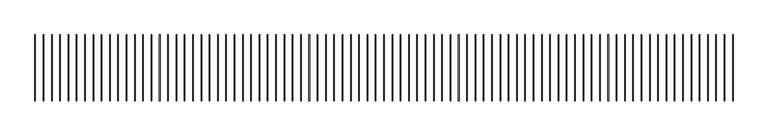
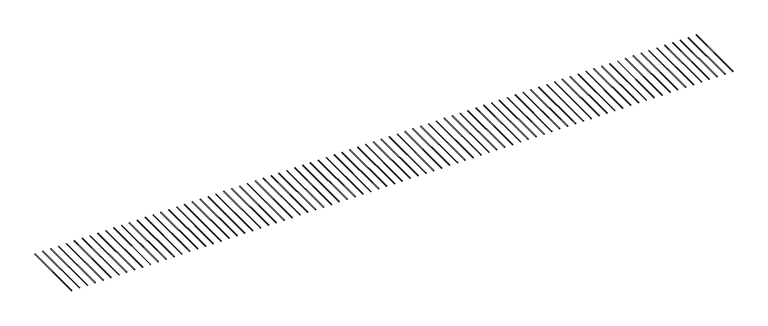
"""IFC4 building model written with IfcOpenShell, lengths in millimetres: proxy geometry, ARQ-PAS-Osogrid-Ace : ARQ-PAS-Osogrid-Ace."""

from ifc_helpers import new_model, si_unit, point, frame, frame_2d, origin, place, context, project, spatial, circle_curve, trimmed, segment, composite_curve, outline, extrude, source, transform, mapped, element, save


def generic_models_87788374(model_context):
    return source(origin(), model_context, "Body", "SweptSolid", [
        extrude(outline(composite_curve([segment(trimmed(circle_curve(frame_2d((30.343695, -108.264152)), 3.0), [point((30.343695, -111.264152))], [point((30.343695, -105.264152))], False, "CARTESIAN"), True, "CONTINUOUS"), segment(trimmed(circle_curve(frame_2d((30.343695, -108.264152)), 3.0), [point((30.343695, -105.264152))], [point((30.343695, -111.264152))], False, "CARTESIAN"), True, "CONTINUOUS")], self_intersect=False)), frame((0.0, 2.5, 0.0), z_axis=(0.0, 1.0, 0.0), x_axis=(0.0, 0.0, 1.0)), (0.0, 0.0, 1.0), 775.0),
        extrude(outline(composite_curve([segment(trimmed(circle_curve(frame_2d((30.343695, -205.1328389)), 3.0), [point((30.343695, -208.1328389))], [point((30.343695, -202.1328389))], False, "CARTESIAN"), True, "CONTINUOUS"), segment(trimmed(circle_curve(frame_2d((30.343695, -205.1328389)), 3.0), [point((30.343695, -202.1328389))], [point((30.343695, -208.1328389))], False, "CARTESIAN"), True, "CONTINUOUS")], self_intersect=False)), frame((0.0, 2.5, 0.0), z_axis=(0.0, 1.0, 0.0), x_axis=(0.0, 0.0, 1.0)), (0.0, 0.0, 1.0), 775.0),
        extrude(outline(composite_curve([segment(trimmed(circle_curve(frame_2d((30.343695, -302.0015257)), 3.0), [point((30.343695, -305.0015257))], [point((30.343695, -299.0015257))], False, "CARTESIAN"), True, "CONTINUOUS"), segment(trimmed(circle_curve(frame_2d((30.343695, -302.0015257)), 3.0), [point((30.343695, -299.0015257))], [point((30.343695, -305.0015257))], False, "CARTESIAN"), True, "CONTINUOUS")], self_intersect=False)), frame((0.0, 2.5, 0.0), z_axis=(0.0, 1.0, 0.0), x_axis=(0.0, 0.0, 1.0)), (0.0, 0.0, 1.0), 775.0),
        extrude(outline(composite_curve([segment(trimmed(circle_curve(frame_2d((30.343695, -398.8702126)), 3.0), [point((30.343695, -401.8702126))], [point((30.343695, -395.8702126))], False, "CARTESIAN"), True, "CONTINUOUS"), segment(trimmed(circle_curve(frame_2d((30.343695, -398.8702126)), 3.0), [point((30.343695, -395.8702126))], [point((30.343695, -401.8702126))], False, "CARTESIAN"), True, "CONTINUOUS")], self_intersect=False)), frame((0.0, 2.5, 0.0), z_axis=(0.0, 1.0, 0.0), x_axis=(0.0, 0.0, 1.0)), (0.0, 0.0, 1.0), 775.0),
        extrude(outline(composite_curve([segment(trimmed(circle_curve(frame_2d((30.343695, -495.7388995)), 3.0), [point((30.343695, -498.7388995))], [point((30.343695, -492.7388995))], False, "CARTESIAN"), True, "CONTINUOUS"), segment(trimmed(circle_curve(frame_2d((30.343695, -495.7388995)), 3.0), [point((30.343695, -492.7388995))], [point((30.343695, -498.7388995))], False, "CARTESIAN"), True, "CONTINUOUS")], self_intersect=False)), frame((0.0, 2.5, 0.0), z_axis=(0.0, 1.0, 0.0), x_axis=(0.0, 0.0, 1.0)), (0.0, 0.0, 1.0), 775.0),
        extrude(outline(composite_curve([segment(trimmed(circle_curve(frame_2d((30.343695, -592.6075863)), 3.0), [point((30.343695, -595.6075863))], [point((30.343695, -589.6075863))], False, "CARTESIAN"), True, "CONTINUOUS"), segment(trimmed(circle_curve(frame_2d((30.343695, -592.6075863)), 3.0), [point((30.343695, -589.6075863))], [point((30.343695, -595.6075863))], False, "CARTESIAN"), True, "CONTINUOUS")], self_intersect=False)), frame((0.0, 2.5, 0.0), z_axis=(0.0, 1.0, 0.0), x_axis=(0.0, 0.0, 1.0)), (0.0, 0.0, 1.0), 775.0),
        extrude(outline(composite_curve([segment(trimmed(circle_curve(frame_2d((30.343695, -689.4762732)), 3.0), [point((30.343695, -692.4762732))], [point((30.343695, -686.4762732))], False, "CARTESIAN"), True, "CONTINUOUS"), segment(trimmed(circle_curve(frame_2d((30.343695, -689.4762732)), 3.0), [point((30.343695, -686.4762732))], [point((30.343695, -692.4762732))], False, "CARTESIAN"), True, "CONTINUOUS")], self_intersect=False)), frame((0.0, 2.5, 0.0), z_axis=(0.0, 1.0, 0.0), x_axis=(0.0, 0.0, 1.0)), (0.0, 0.0, 1.0), 775.0),
        extrude(outline(composite_curve([segment(trimmed(circle_curve(frame_2d((30.343695, -786.3449601)), 3.0), [point((30.343695, -789.3449601))], [point((30.343695, -783.3449601))], False, "CARTESIAN"), True, "CONTINUOUS"), segment(trimmed(circle_curve(frame_2d((30.343695, -786.3449601)), 3.0), [point((30.343695, -783.3449601))], [point((30.343695, -789.3449601))], False, "CARTESIAN"), True, "CONTINUOUS")], self_intersect=False)), frame((0.0, 2.5, 0.0), z_axis=(0.0, 1.0, 0.0), x_axis=(0.0, 0.0, 1.0)), (0.0, 0.0, 1.0), 775.0),
        extrude(outline(composite_curve([segment(trimmed(circle_curve(frame_2d((30.343695, -883.2136469)), 3.0), [point((30.343695, -886.2136469))], [point((30.343695, -880.2136469))], False, "CARTESIAN"), True, "CONTINUOUS"), segment(trimmed(circle_curve(frame_2d((30.343695, -883.2136469)), 3.0), [point((30.343695, -880.2136469))], [point((30.343695, -886.2136469))], False, "CARTESIAN"), True, "CONTINUOUS")], self_intersect=False)), frame((0.0, 2.5, 0.0), z_axis=(0.0, 1.0, 0.0), x_axis=(0.0, 0.0, 1.0)), (0.0, 0.0, 1.0), 775.0),
        extrude(outline(composite_curve([segment(trimmed(circle_curve(frame_2d((30.343695, -980.0823338)), 3.0), [point((30.343695, -983.0823338))], [point((30.343695, -977.0823338))], False, "CARTESIAN"), True, "CONTINUOUS"), segment(trimmed(circle_curve(frame_2d((30.343695, -980.0823338)), 3.0), [point((30.343695, -977.0823338))], [point((30.343695, -983.0823338))], False, "CARTESIAN"), True, "CONTINUOUS")], self_intersect=False)), frame((0.0, 2.5, 0.0), z_axis=(0.0, 1.0, 0.0), x_axis=(0.0, 0.0, 1.0)), (0.0, 0.0, 1.0), 775.0),
        extrude(outline(composite_curve([segment(trimmed(circle_curve(frame_2d((30.343695, -1076.9510207)), 3.0), [point((30.343695, -1079.9510207))], [point((30.343695, -1073.9510207))], False, "CARTESIAN"), True, "CONTINUOUS"), segment(trimmed(circle_curve(frame_2d((30.343695, -1076.9510207)), 3.0), [point((30.343695, -1073.9510207))], [point((30.343695, -1079.9510207))], False, "CARTESIAN"), True, "CONTINUOUS")], self_intersect=False)), frame((0.0, 2.5, 0.0), z_axis=(0.0, 1.0, 0.0), x_axis=(0.0, 0.0, 1.0)), (0.0, 0.0, 1.0), 775.0),
        extrude(outline(composite_curve([segment(trimmed(circle_curve(frame_2d((30.343695, -1173.8197076)), 3.0), [point((30.343695, -1176.8197076))], [point((30.343695, -1170.8197076))], False, "CARTESIAN"), True, "CONTINUOUS"), segment(trimmed(circle_curve(frame_2d((30.343695, -1173.8197076)), 3.0), [point((30.343695, -1170.8197076))], [point((30.343695, -1176.8197076))], False, "CARTESIAN"), True, "CONTINUOUS")], self_intersect=False)), frame((0.0, 2.5, 0.0), z_axis=(0.0, 1.0, 0.0), x_axis=(0.0, 0.0, 1.0)), (0.0, 0.0, 1.0), 775.0),
        extrude(outline(composite_curve([segment(trimmed(circle_curve(frame_2d((30.343695, -1270.6883944)), 3.0), [point((30.343695, -1273.6883944))], [point((30.343695, -1267.6883944))], False, "CARTESIAN"), True, "CONTINUOUS"), segment(trimmed(circle_curve(frame_2d((30.343695, -1270.6883944)), 3.0), [point((30.343695, -1267.6883944))], [point((30.343695, -1273.6883944))], False, "CARTESIAN"), True, "CONTINUOUS")], self_intersect=False)), frame((0.0, 2.5, 0.0), z_axis=(0.0, 1.0, 0.0), x_axis=(0.0, 0.0, 1.0)), (0.0, 0.0, 1.0), 775.0),
        extrude(outline(composite_curve([segment(trimmed(circle_curve(frame_2d((30.343695, -1367.5570813)), 3.0), [point((30.343695, -1370.5570813))], [point((30.343695, -1364.5570813))], False, "CARTESIAN"), True, "CONTINUOUS"), segment(trimmed(circle_curve(frame_2d((30.343695, -1367.5570813)), 3.0), [point((30.343695, -1364.5570813))], [point((30.343695, -1370.5570813))], False, "CARTESIAN"), True, "CONTINUOUS")], self_intersect=False)), frame((0.0, 2.5, 0.0), z_axis=(0.0, 1.0, 0.0), x_axis=(0.0, 0.0, 1.0)), (0.0, 0.0, 1.0), 775.0),
        extrude(outline(composite_curve([segment(trimmed(circle_curve(frame_2d((30.343695, -1464.4257682)), 3.0), [point((30.343695, -1467.4257682))], [point((30.343695, -1461.4257682))], False, "CARTESIAN"), True, "CONTINUOUS"), segment(trimmed(circle_curve(frame_2d((30.343695, -1464.4257682)), 3.0), [point((30.343695, -1461.4257682))], [point((30.343695, -1467.4257682))], False, "CARTESIAN"), True, "CONTINUOUS")], self_intersect=False)), frame((0.0, 2.5, 0.0), z_axis=(0.0, 1.0, 0.0), x_axis=(0.0, 0.0, 1.0)), (0.0, 0.0, 1.0), 775.0),
        extrude(outline(composite_curve([segment(trimmed(circle_curve(frame_2d((30.343695, -1561.294455)), 3.0), [point((30.343695, -1564.294455))], [point((30.343695, -1558.294455))], False, "CARTESIAN"), True, "CONTINUOUS"), segment(trimmed(circle_curve(frame_2d((30.343695, -1561.294455)), 3.0), [point((30.343695, -1558.294455))], [point((30.343695, -1564.294455))], False, "CARTESIAN"), True, "CONTINUOUS")], self_intersect=False)), frame((0.0, 2.5, 0.0), z_axis=(0.0, 1.0, 0.0), x_axis=(0.0, 0.0, 1.0)), (0.0, 0.0, 1.0), 775.0),
        extrude(outline(composite_curve([segment(trimmed(circle_curve(frame_2d((30.343695, -1658.1631419)), 3.0), [point((30.343695, -1661.1631419))], [point((30.343695, -1655.1631419))], False, "CARTESIAN"), True, "CONTINUOUS"), segment(trimmed(circle_curve(frame_2d((30.343695, -1658.1631419)), 3.0), [point((30.343695, -1655.1631419))], [point((30.343695, -1661.1631419))], False, "CARTESIAN"), True, "CONTINUOUS")], self_intersect=False)), frame((0.0, 2.5, 0.0), z_axis=(0.0, 1.0, 0.0), x_axis=(0.0, 0.0, 1.0)), (0.0, 0.0, 1.0), 775.0),
        extrude(outline(composite_curve([segment(trimmed(circle_curve(frame_2d((30.343695, -1755.0318288)), 3.0), [point((30.343695, -1758.0318288))], [point((30.343695, -1752.0318288))], False, "CARTESIAN"), True, "CONTINUOUS"), segment(trimmed(circle_curve(frame_2d((30.343695, -1755.0318288)), 3.0), [point((30.343695, -1752.0318288))], [point((30.343695, -1758.0318288))], False, "CARTESIAN"), True, "CONTINUOUS")], self_intersect=False)), frame((0.0, 2.5, 0.0), z_axis=(0.0, 1.0, 0.0), x_axis=(0.0, 0.0, 1.0)), (0.0, 0.0, 1.0), 775.0),
        extrude(outline(composite_curve([segment(trimmed(circle_curve(frame_2d((30.343695, -1851.9005156)), 3.0), [point((30.343695, -1854.9005156))], [point((30.343695, -1848.9005156))], False, "CARTESIAN"), True, "CONTINUOUS"), segment(trimmed(circle_curve(frame_2d((30.343695, -1851.9005156)), 3.0), [point((30.343695, -1848.9005156))], [point((30.343695, -1854.9005156))], False, "CARTESIAN"), True, "CONTINUOUS")], self_intersect=False)), frame((0.0, 2.5, 0.0), z_axis=(0.0, 1.0, 0.0), x_axis=(0.0, 0.0, 1.0)), (0.0, 0.0, 1.0), 775.0),
        extrude(outline(composite_curve([segment(trimmed(circle_curve(frame_2d((30.343695, -1948.7692025)), 3.0), [point((30.343695, -1951.7692025))], [point((30.343695, -1945.7692025))], False, "CARTESIAN"), True, "CONTINUOUS"), segment(trimmed(circle_curve(frame_2d((30.343695, -1948.7692025)), 3.0), [point((30.343695, -1945.7692025))], [point((30.343695, -1951.7692025))], False, "CARTESIAN"), True, "CONTINUOUS")], self_intersect=False)), frame((0.0, 2.5, 0.0), z_axis=(0.0, 1.0, 0.0), x_axis=(0.0, 0.0, 1.0)), (0.0, 0.0, 1.0), 775.0),
        extrude(outline(composite_curve([segment(trimmed(circle_curve(frame_2d((30.343695, -2045.6378894)), 3.0), [point((30.343695, -2048.6378894))], [point((30.343695, -2042.6378894))], False, "CARTESIAN"), True, "CONTINUOUS"), segment(trimmed(circle_curve(frame_2d((30.343695, -2045.6378894)), 3.0), [point((30.343695, -2042.6378894))], [point((30.343695, -2048.6378894))], False, "CARTESIAN"), True, "CONTINUOUS")], self_intersect=False)), frame((0.0, 2.5, 0.0), z_axis=(0.0, 1.0, 0.0), x_axis=(0.0, 0.0, 1.0)), (0.0, 0.0, 1.0), 775.0),
        extrude(outline(composite_curve([segment(trimmed(circle_curve(frame_2d((30.343695, -2142.5065762)), 3.0), [point((30.343695, -2145.5065762))], [point((30.343695, -2139.5065762))], False, "CARTESIAN"), True, "CONTINUOUS"), segment(trimmed(circle_curve(frame_2d((30.343695, -2142.5065762)), 3.0), [point((30.343695, -2139.5065762))], [point((30.343695, -2145.5065762))], False, "CARTESIAN"), True, "CONTINUOUS")], self_intersect=False)), frame((0.0, 2.5, 0.0), z_axis=(0.0, 1.0, 0.0), x_axis=(0.0, 0.0, 1.0)), (0.0, 0.0, 1.0), 775.0),
        extrude(outline(composite_curve([segment(trimmed(circle_curve(frame_2d((30.343695, -2239.3752631)), 3.0), [point((30.343695, -2242.3752631))], [point((30.343695, -2236.3752631))], False, "CARTESIAN"), True, "CONTINUOUS"), segment(trimmed(circle_curve(frame_2d((30.343695, -2239.3752631)), 3.0), [point((30.343695, -2236.3752631))], [point((30.343695, -2242.3752631))], False, "CARTESIAN"), True, "CONTINUOUS")], self_intersect=False)), frame((0.0, 2.5, 0.0), z_axis=(0.0, 1.0, 0.0), x_axis=(0.0, 0.0, 1.0)), (0.0, 0.0, 1.0), 775.0),
        extrude(outline(composite_curve([segment(trimmed(circle_curve(frame_2d((30.343695, -2336.24395)), 3.0), [point((30.343695, -2339.24395))], [point((30.343695, -2333.24395))], False, "CARTESIAN"), True, "CONTINUOUS"), segment(trimmed(circle_curve(frame_2d((30.343695, -2336.24395)), 3.0), [point((30.343695, -2333.24395))], [point((30.343695, -2339.24395))], False, "CARTESIAN"), True, "CONTINUOUS")], self_intersect=False)), frame((0.0, 2.5, 0.0), z_axis=(0.0, 1.0, 0.0), x_axis=(0.0, 0.0, 1.0)), (0.0, 0.0, 1.0), 775.0),
        extrude(outline(composite_curve([segment(trimmed(circle_curve(frame_2d((30.343695, -2433.1126368)), 3.0), [point((30.343695, -2436.1126368))], [point((30.343695, -2430.1126368))], False, "CARTESIAN"), True, "CONTINUOUS"), segment(trimmed(circle_curve(frame_2d((30.343695, -2433.1126368)), 3.0), [point((30.343695, -2430.1126368))], [point((30.343695, -2436.1126368))], False, "CARTESIAN"), True, "CONTINUOUS")], self_intersect=False)), frame((0.0, 2.5, 0.0), z_axis=(0.0, 1.0, 0.0), x_axis=(0.0, 0.0, 1.0)), (0.0, 0.0, 1.0), 775.0),
        extrude(outline(composite_curve([segment(trimmed(circle_curve(frame_2d((30.343695, -2529.9813237)), 3.0), [point((30.343695, -2532.9813237))], [point((30.343695, -2526.9813237))], False, "CARTESIAN"), True, "CONTINUOUS"), segment(trimmed(circle_curve(frame_2d((30.343695, -2529.9813237)), 3.0), [point((30.343695, -2526.9813237))], [point((30.343695, -2532.9813237))], False, "CARTESIAN"), True, "CONTINUOUS")], self_intersect=False)), frame((0.0, 2.5, 0.0), z_axis=(0.0, 1.0, 0.0), x_axis=(0.0, 0.0, 1.0)), (0.0, 0.0, 1.0), 775.0),
        extrude(outline(composite_curve([segment(trimmed(circle_curve(frame_2d((30.343695, -2626.8500106)), 3.0), [point((30.343695, -2629.8500106))], [point((30.343695, -2623.8500106))], False, "CARTESIAN"), True, "CONTINUOUS"), segment(trimmed(circle_curve(frame_2d((30.343695, -2626.8500106)), 3.0), [point((30.343695, -2623.8500106))], [point((30.343695, -2629.8500106))], False, "CARTESIAN"), True, "CONTINUOUS")], self_intersect=False)), frame((0.0, 2.5, 0.0), z_axis=(0.0, 1.0, 0.0), x_axis=(0.0, 0.0, 1.0)), (0.0, 0.0, 1.0), 775.0),
        extrude(outline(composite_curve([segment(trimmed(circle_curve(frame_2d((30.343695, -2723.7186975)), 3.0), [point((30.343695, -2726.7186975))], [point((30.343695, -2720.7186975))], False, "CARTESIAN"), True, "CONTINUOUS"), segment(trimmed(circle_curve(frame_2d((30.343695, -2723.7186975)), 3.0), [point((30.343695, -2720.7186975))], [point((30.343695, -2726.7186975))], False, "CARTESIAN"), True, "CONTINUOUS")], self_intersect=False)), frame((0.0, 2.5, 0.0), z_axis=(0.0, 1.0, 0.0), x_axis=(0.0, 0.0, 1.0)), (0.0, 0.0, 1.0), 775.0),
        extrude(outline(composite_curve([segment(trimmed(circle_curve(frame_2d((30.343695, -2820.5873843)), 3.0), [point((30.343695, -2823.5873843))], [point((30.343695, -2817.5873843))], False, "CARTESIAN"), True, "CONTINUOUS"), segment(trimmed(circle_curve(frame_2d((30.343695, -2820.5873843)), 3.0), [point((30.343695, -2817.5873843))], [point((30.343695, -2823.5873843))], False, "CARTESIAN"), True, "CONTINUOUS")], self_intersect=False)), frame((0.0, 2.5, 0.0), z_axis=(0.0, 1.0, 0.0), x_axis=(0.0, 0.0, 1.0)), (0.0, 0.0, 1.0), 775.0),
        extrude(outline(composite_curve([segment(trimmed(circle_curve(frame_2d((30.343695, -2917.4560712)), 3.0), [point((30.343695, -2920.4560712))], [point((30.343695, -2914.4560712))], False, "CARTESIAN"), True, "CONTINUOUS"), segment(trimmed(circle_curve(frame_2d((30.343695, -2917.4560712)), 3.0), [point((30.343695, -2914.4560712))], [point((30.343695, -2920.4560712))], False, "CARTESIAN"), True, "CONTINUOUS")], self_intersect=False)), frame((0.0, 2.5, 0.0), z_axis=(0.0, 1.0, 0.0), x_axis=(0.0, 0.0, 1.0)), (0.0, 0.0, 1.0), 775.0),
        extrude(outline(composite_curve([segment(trimmed(circle_curve(frame_2d((30.343695, -3014.3247581)), 3.0), [point((30.343695, -3017.3247581))], [point((30.343695, -3011.3247581))], False, "CARTESIAN"), True, "CONTINUOUS"), segment(trimmed(circle_curve(frame_2d((30.343695, -3014.3247581)), 3.0), [point((30.343695, -3011.3247581))], [point((30.343695, -3017.3247581))], False, "CARTESIAN"), True, "CONTINUOUS")], self_intersect=False)), frame((0.0, 2.5, 0.0), z_axis=(0.0, 1.0, 0.0), x_axis=(0.0, 0.0, 1.0)), (0.0, 0.0, 1.0), 775.0),
        extrude(outline(composite_curve([segment(trimmed(circle_curve(frame_2d((30.343695, -3111.1934449)), 3.0), [point((30.343695, -3114.1934449))], [point((30.343695, -3108.1934449))], False, "CARTESIAN"), True, "CONTINUOUS"), segment(trimmed(circle_curve(frame_2d((30.343695, -3111.1934449)), 3.0), [point((30.343695, -3108.1934449))], [point((30.343695, -3114.1934449))], False, "CARTESIAN"), True, "CONTINUOUS")], self_intersect=False)), frame((0.0, 2.5, 0.0), z_axis=(0.0, 1.0, 0.0), x_axis=(0.0, 0.0, 1.0)), (0.0, 0.0, 1.0), 775.0),
        extrude(outline(composite_curve([segment(trimmed(circle_curve(frame_2d((30.343695, -3208.0621318)), 3.0), [point((30.343695, -3211.0621318))], [point((30.343695, -3205.0621318))], False, "CARTESIAN"), True, "CONTINUOUS"), segment(trimmed(circle_curve(frame_2d((30.343695, -3208.0621318)), 3.0), [point((30.343695, -3205.0621318))], [point((30.343695, -3211.0621318))], False, "CARTESIAN"), True, "CONTINUOUS")], self_intersect=False)), frame((0.0, 2.5, 0.0), z_axis=(0.0, 1.0, 0.0), x_axis=(0.0, 0.0, 1.0)), (0.0, 0.0, 1.0), 775.0),
        extrude(outline(composite_curve([segment(trimmed(circle_curve(frame_2d((30.343695, -3304.9308187)), 3.0), [point((30.343695, -3307.9308187))], [point((30.343695, -3301.9308187))], False, "CARTESIAN"), True, "CONTINUOUS"), segment(trimmed(circle_curve(frame_2d((30.343695, -3304.9308187)), 3.0), [point((30.343695, -3301.9308187))], [point((30.343695, -3307.9308187))], False, "CARTESIAN"), True, "CONTINUOUS")], self_intersect=False)), frame((0.0, 2.5, 0.0), z_axis=(0.0, 1.0, 0.0), x_axis=(0.0, 0.0, 1.0)), (0.0, 0.0, 1.0), 775.0),
        extrude(outline(composite_curve([segment(trimmed(circle_curve(frame_2d((30.343695, -3401.7995055)), 3.0), [point((30.343695, -3404.7995055))], [point((30.343695, -3398.7995055))], False, "CARTESIAN"), True, "CONTINUOUS"), segment(trimmed(circle_curve(frame_2d((30.343695, -3401.7995055)), 3.0), [point((30.343695, -3398.7995055))], [point((30.343695, -3404.7995055))], False, "CARTESIAN"), True, "CONTINUOUS")], self_intersect=False)), frame((0.0, 2.5, 0.0), z_axis=(0.0, 1.0, 0.0), x_axis=(0.0, 0.0, 1.0)), (0.0, 0.0, 1.0), 775.0),
        extrude(outline(composite_curve([segment(trimmed(circle_curve(frame_2d((30.343695, -3498.6681924)), 3.0), [point((30.343695, -3501.6681924))], [point((30.343695, -3495.6681924))], False, "CARTESIAN"), True, "CONTINUOUS"), segment(trimmed(circle_curve(frame_2d((30.343695, -3498.6681924)), 3.0), [point((30.343695, -3495.6681924))], [point((30.343695, -3501.6681924))], False, "CARTESIAN"), True, "CONTINUOUS")], self_intersect=False)), frame((0.0, 2.5, 0.0), z_axis=(0.0, 1.0, 0.0), x_axis=(0.0, 0.0, 1.0)), (0.0, 0.0, 1.0), 775.0),
        extrude(outline(composite_curve([segment(trimmed(circle_curve(frame_2d((30.343695, -3595.5368793)), 3.0), [point((30.343695, -3598.5368793))], [point((30.343695, -3592.5368793))], False, "CARTESIAN"), True, "CONTINUOUS"), segment(trimmed(circle_curve(frame_2d((30.343695, -3595.5368793)), 3.0), [point((30.343695, -3592.5368793))], [point((30.343695, -3598.5368793))], False, "CARTESIAN"), True, "CONTINUOUS")], self_intersect=False)), frame((0.0, 2.5, 0.0), z_axis=(0.0, 1.0, 0.0), x_axis=(0.0, 0.0, 1.0)), (0.0, 0.0, 1.0), 775.0),
        extrude(outline(composite_curve([segment(trimmed(circle_curve(frame_2d((30.343695, -3692.4055661)), 3.0), [point((30.343695, -3695.4055661))], [point((30.343695, -3689.4055661))], False, "CARTESIAN"), True, "CONTINUOUS"), segment(trimmed(circle_curve(frame_2d((30.343695, -3692.4055661)), 3.0), [point((30.343695, -3689.4055661))], [point((30.343695, -3695.4055661))], False, "CARTESIAN"), True, "CONTINUOUS")], self_intersect=False)), frame((0.0, 2.5, 0.0), z_axis=(0.0, 1.0, 0.0), x_axis=(0.0, 0.0, 1.0)), (0.0, 0.0, 1.0), 775.0),
        extrude(outline(composite_curve([segment(trimmed(circle_curve(frame_2d((30.343695, -3789.274253)), 3.0), [point((30.343695, -3792.274253))], [point((30.343695, -3786.274253))], False, "CARTESIAN"), True, "CONTINUOUS"), segment(trimmed(circle_curve(frame_2d((30.343695, -3789.274253)), 3.0), [point((30.343695, -3786.274253))], [point((30.343695, -3792.274253))], False, "CARTESIAN"), True, "CONTINUOUS")], self_intersect=False)), frame((0.0, 2.5, 0.0), z_axis=(0.0, 1.0, 0.0), x_axis=(0.0, 0.0, 1.0)), (0.0, 0.0, 1.0), 775.0),
        extrude(outline(composite_curve([segment(trimmed(circle_curve(frame_2d((30.343695, -3886.1429399)), 3.0), [point((30.343695, -3889.1429399))], [point((30.343695, -3883.1429399))], False, "CARTESIAN"), True, "CONTINUOUS"), segment(trimmed(circle_curve(frame_2d((30.343695, -3886.1429399)), 3.0), [point((30.343695, -3883.1429399))], [point((30.343695, -3889.1429399))], False, "CARTESIAN"), True, "CONTINUOUS")], self_intersect=False)), frame((0.0, 2.5, 0.0), z_axis=(0.0, 1.0, 0.0), x_axis=(0.0, 0.0, 1.0)), (0.0, 0.0, 1.0), 775.0),
        extrude(outline(composite_curve([segment(trimmed(circle_curve(frame_2d((30.343695, -3983.0116267)), 3.0), [point((30.343695, -3986.0116267))], [point((30.343695, -3980.0116267))], False, "CARTESIAN"), True, "CONTINUOUS"), segment(trimmed(circle_curve(frame_2d((30.343695, -3983.0116267)), 3.0), [point((30.343695, -3980.0116267))], [point((30.343695, -3986.0116267))], False, "CARTESIAN"), True, "CONTINUOUS")], self_intersect=False)), frame((0.0, 2.5, 0.0), z_axis=(0.0, 1.0, 0.0), x_axis=(0.0, 0.0, 1.0)), (0.0, 0.0, 1.0), 775.0),
        extrude(outline(composite_curve([segment(trimmed(circle_curve(frame_2d((30.343695, -4079.8803136)), 3.0), [point((30.343695, -4082.8803136))], [point((30.343695, -4076.8803136))], False, "CARTESIAN"), True, "CONTINUOUS"), segment(trimmed(circle_curve(frame_2d((30.343695, -4079.8803136)), 3.0), [point((30.343695, -4076.8803136))], [point((30.343695, -4082.8803136))], False, "CARTESIAN"), True, "CONTINUOUS")], self_intersect=False)), frame((0.0, 2.5, 0.0), z_axis=(0.0, 1.0, 0.0), x_axis=(0.0, 0.0, 1.0)), (0.0, 0.0, 1.0), 775.0),
        extrude(outline(composite_curve([segment(trimmed(circle_curve(frame_2d((30.343695, -4176.7490005)), 3.0), [point((30.343695, -4179.7490005))], [point((30.343695, -4173.7490005))], False, "CARTESIAN"), True, "CONTINUOUS"), segment(trimmed(circle_curve(frame_2d((30.343695, -4176.7490005)), 3.0), [point((30.343695, -4173.7490005))], [point((30.343695, -4179.7490005))], False, "CARTESIAN"), True, "CONTINUOUS")], self_intersect=False)), frame((0.0, 2.5, 0.0), z_axis=(0.0, 1.0, 0.0), x_axis=(0.0, 0.0, 1.0)), (0.0, 0.0, 1.0), 775.0),
        extrude(outline(composite_curve([segment(trimmed(circle_curve(frame_2d((30.343695, -4273.6176874)), 3.0), [point((30.343695, -4276.6176874))], [point((30.343695, -4270.6176874))], False, "CARTESIAN"), True, "CONTINUOUS"), segment(trimmed(circle_curve(frame_2d((30.343695, -4273.6176874)), 3.0), [point((30.343695, -4270.6176874))], [point((30.343695, -4276.6176874))], False, "CARTESIAN"), True, "CONTINUOUS")], self_intersect=False)), frame((0.0, 2.5, 0.0), z_axis=(0.0, 1.0, 0.0), x_axis=(0.0, 0.0, 1.0)), (0.0, 0.0, 1.0), 775.0),
        extrude(outline(composite_curve([segment(trimmed(circle_curve(frame_2d((30.343695, -4370.4863742)), 3.0), [point((30.343695, -4373.4863742))], [point((30.343695, -4367.4863742))], False, "CARTESIAN"), True, "CONTINUOUS"), segment(trimmed(circle_curve(frame_2d((30.343695, -4370.4863742)), 3.0), [point((30.343695, -4367.4863742))], [point((30.343695, -4373.4863742))], False, "CARTESIAN"), True, "CONTINUOUS")], self_intersect=False)), frame((0.0, 2.5, 0.0), z_axis=(0.0, 1.0, 0.0), x_axis=(0.0, 0.0, 1.0)), (0.0, 0.0, 1.0), 775.0),
        extrude(outline(composite_curve([segment(trimmed(circle_curve(frame_2d((30.343695, -4467.3550611)), 3.0), [point((30.343695, -4470.3550611))], [point((30.343695, -4464.3550611))], False, "CARTESIAN"), True, "CONTINUOUS"), segment(trimmed(circle_curve(frame_2d((30.343695, -4467.3550611)), 3.0), [point((30.343695, -4464.3550611))], [point((30.343695, -4470.3550611))], False, "CARTESIAN"), True, "CONTINUOUS")], self_intersect=False)), frame((0.0, 2.5, 0.0), z_axis=(0.0, 1.0, 0.0), x_axis=(0.0, 0.0, 1.0)), (0.0, 0.0, 1.0), 775.0),
        extrude(outline(composite_curve([segment(trimmed(circle_curve(frame_2d((30.343695, -4564.223748)), 3.0), [point((30.343695, -4567.223748))], [point((30.343695, -4561.223748))], False, "CARTESIAN"), True, "CONTINUOUS"), segment(trimmed(circle_curve(frame_2d((30.343695, -4564.223748)), 3.0), [point((30.343695, -4561.223748))], [point((30.343695, -4567.223748))], False, "CARTESIAN"), True, "CONTINUOUS")], self_intersect=False)), frame((0.0, 2.5, 0.0), z_axis=(0.0, 1.0, 0.0), x_axis=(0.0, 0.0, 1.0)), (0.0, 0.0, 1.0), 775.0),
        extrude(outline(composite_curve([segment(trimmed(circle_curve(frame_2d((30.343695, -4661.0924348)), 3.0), [point((30.343695, -4664.0924348))], [point((30.343695, -4658.0924348))], False, "CARTESIAN"), True, "CONTINUOUS"), segment(trimmed(circle_curve(frame_2d((30.343695, -4661.0924348)), 3.0), [point((30.343695, -4658.0924348))], [point((30.343695, -4664.0924348))], False, "CARTESIAN"), True, "CONTINUOUS")], self_intersect=False)), frame((0.0, 2.5, 0.0), z_axis=(0.0, 1.0, 0.0), x_axis=(0.0, 0.0, 1.0)), (0.0, 0.0, 1.0), 775.0),
        extrude(outline(composite_curve([segment(trimmed(circle_curve(frame_2d((30.343695, -4757.9611217)), 3.0), [point((30.343695, -4760.9611217))], [point((30.343695, -4754.9611217))], False, "CARTESIAN"), True, "CONTINUOUS"), segment(trimmed(circle_curve(frame_2d((30.343695, -4757.9611217)), 3.0), [point((30.343695, -4754.9611217))], [point((30.343695, -4760.9611217))], False, "CARTESIAN"), True, "CONTINUOUS")], self_intersect=False)), frame((0.0, 2.5, 0.0), z_axis=(0.0, 1.0, 0.0), x_axis=(0.0, 0.0, 1.0)), (0.0, 0.0, 1.0), 775.0),
        extrude(outline(composite_curve([segment(trimmed(circle_curve(frame_2d((30.343695, -4854.8298086)), 3.0), [point((30.343695, -4857.8298086))], [point((30.343695, -4851.8298086))], False, "CARTESIAN"), True, "CONTINUOUS"), segment(trimmed(circle_curve(frame_2d((30.343695, -4854.8298086)), 3.0), [point((30.343695, -4851.8298086))], [point((30.343695, -4857.8298086))], False, "CARTESIAN"), True, "CONTINUOUS")], self_intersect=False)), frame((0.0, 2.5, 0.0), z_axis=(0.0, 1.0, 0.0), x_axis=(0.0, 0.0, 1.0)), (0.0, 0.0, 1.0), 775.0),
        extrude(outline(composite_curve([segment(trimmed(circle_curve(frame_2d((30.343695, -4951.6984954)), 3.0), [point((30.343695, -4954.6984954))], [point((30.343695, -4948.6984954))], False, "CARTESIAN"), True, "CONTINUOUS"), segment(trimmed(circle_curve(frame_2d((30.343695, -4951.6984954)), 3.0), [point((30.343695, -4948.6984954))], [point((30.343695, -4954.6984954))], False, "CARTESIAN"), True, "CONTINUOUS")], self_intersect=False)), frame((0.0, 2.5, 0.0), z_axis=(0.0, 1.0, 0.0), x_axis=(0.0, 0.0, 1.0)), (0.0, 0.0, 1.0), 775.0),
        extrude(outline(composite_curve([segment(trimmed(circle_curve(frame_2d((30.343695, -5048.5671823)), 3.0), [point((30.343695, -5051.5671823))], [point((30.343695, -5045.5671823))], False, "CARTESIAN"), True, "CONTINUOUS"), segment(trimmed(circle_curve(frame_2d((30.343695, -5048.5671823)), 3.0), [point((30.343695, -5045.5671823))], [point((30.343695, -5051.5671823))], False, "CARTESIAN"), True, "CONTINUOUS")], self_intersect=False)), frame((0.0, 2.5, 0.0), z_axis=(0.0, 1.0, 0.0), x_axis=(0.0, 0.0, 1.0)), (0.0, 0.0, 1.0), 775.0),
        extrude(outline(composite_curve([segment(trimmed(circle_curve(frame_2d((30.343695, -5145.4358692)), 3.0), [point((30.343695, -5148.4358692))], [point((30.343695, -5142.4358692))], False, "CARTESIAN"), True, "CONTINUOUS"), segment(trimmed(circle_curve(frame_2d((30.343695, -5145.4358692)), 3.0), [point((30.343695, -5142.4358692))], [point((30.343695, -5148.4358692))], False, "CARTESIAN"), True, "CONTINUOUS")], self_intersect=False)), frame((0.0, 2.5, 0.0), z_axis=(0.0, 1.0, 0.0), x_axis=(0.0, 0.0, 1.0)), (0.0, 0.0, 1.0), 775.0),
        extrude(outline(composite_curve([segment(trimmed(circle_curve(frame_2d((30.343695, -5242.304556)), 3.0), [point((30.343695, -5245.304556))], [point((30.343695, -5239.304556))], False, "CARTESIAN"), True, "CONTINUOUS"), segment(trimmed(circle_curve(frame_2d((30.343695, -5242.304556)), 3.0), [point((30.343695, -5239.304556))], [point((30.343695, -5245.304556))], False, "CARTESIAN"), True, "CONTINUOUS")], self_intersect=False)), frame((0.0, 2.5, 0.0), z_axis=(0.0, 1.0, 0.0), x_axis=(0.0, 0.0, 1.0)), (0.0, 0.0, 1.0), 775.0),
        extrude(outline(composite_curve([segment(trimmed(circle_curve(frame_2d((30.343695, -5339.1732429)), 3.0), [point((30.343695, -5342.1732429))], [point((30.343695, -5336.1732429))], False, "CARTESIAN"), True, "CONTINUOUS"), segment(trimmed(circle_curve(frame_2d((30.343695, -5339.1732429)), 3.0), [point((30.343695, -5336.1732429))], [point((30.343695, -5342.1732429))], False, "CARTESIAN"), True, "CONTINUOUS")], self_intersect=False)), frame((0.0, 2.5, 0.0), z_axis=(0.0, 1.0, 0.0), x_axis=(0.0, 0.0, 1.0)), (0.0, 0.0, 1.0), 775.0),
        extrude(outline(composite_curve([segment(trimmed(circle_curve(frame_2d((30.343695, -5436.0419298)), 3.0), [point((30.343695, -5439.0419298))], [point((30.343695, -5433.0419298))], False, "CARTESIAN"), True, "CONTINUOUS"), segment(trimmed(circle_curve(frame_2d((30.343695, -5436.0419298)), 3.0), [point((30.343695, -5433.0419298))], [point((30.343695, -5439.0419298))], False, "CARTESIAN"), True, "CONTINUOUS")], self_intersect=False)), frame((0.0, 2.5, 0.0), z_axis=(0.0, 1.0, 0.0), x_axis=(0.0, 0.0, 1.0)), (0.0, 0.0, 1.0), 775.0),
        extrude(outline(composite_curve([segment(trimmed(circle_curve(frame_2d((30.343695, -5532.9106166)), 3.0), [point((30.343695, -5535.9106166))], [point((30.343695, -5529.9106166))], False, "CARTESIAN"), True, "CONTINUOUS"), segment(trimmed(circle_curve(frame_2d((30.343695, -5532.9106166)), 3.0), [point((30.343695, -5529.9106166))], [point((30.343695, -5535.9106166))], False, "CARTESIAN"), True, "CONTINUOUS")], self_intersect=False)), frame((0.0, 2.5, 0.0), z_axis=(0.0, 1.0, 0.0), x_axis=(0.0, 0.0, 1.0)), (0.0, 0.0, 1.0), 775.0),
        extrude(outline(composite_curve([segment(trimmed(circle_curve(frame_2d((30.343695, -5629.7793035)), 3.0), [point((30.343695, -5632.7793035))], [point((30.343695, -5626.7793035))], False, "CARTESIAN"), True, "CONTINUOUS"), segment(trimmed(circle_curve(frame_2d((30.343695, -5629.7793035)), 3.0), [point((30.343695, -5626.7793035))], [point((30.343695, -5632.7793035))], False, "CARTESIAN"), True, "CONTINUOUS")], self_intersect=False)), frame((0.0, 2.5, 0.0), z_axis=(0.0, 1.0, 0.0), x_axis=(0.0, 0.0, 1.0)), (0.0, 0.0, 1.0), 775.0),
        extrude(outline(composite_curve([segment(trimmed(circle_curve(frame_2d((30.343695, -5726.6479904)), 3.0), [point((30.343695, -5729.6479904))], [point((30.343695, -5723.6479904))], False, "CARTESIAN"), True, "CONTINUOUS"), segment(trimmed(circle_curve(frame_2d((30.343695, -5726.6479904)), 3.0), [point((30.343695, -5723.6479904))], [point((30.343695, -5729.6479904))], False, "CARTESIAN"), True, "CONTINUOUS")], self_intersect=False)), frame((0.0, 2.5, 0.0), z_axis=(0.0, 1.0, 0.0), x_axis=(0.0, 0.0, 1.0)), (0.0, 0.0, 1.0), 775.0),
        extrude(outline(composite_curve([segment(trimmed(circle_curve(frame_2d((30.343695, -5823.5166772)), 3.0), [point((30.343695, -5826.5166772))], [point((30.343695, -5820.5166772))], False, "CARTESIAN"), True, "CONTINUOUS"), segment(trimmed(circle_curve(frame_2d((30.343695, -5823.5166772)), 3.0), [point((30.343695, -5820.5166772))], [point((30.343695, -5826.5166772))], False, "CARTESIAN"), True, "CONTINUOUS")], self_intersect=False)), frame((0.0, 2.5, 0.0), z_axis=(0.0, 1.0, 0.0), x_axis=(0.0, 0.0, 1.0)), (0.0, 0.0, 1.0), 775.0),
        extrude(outline(composite_curve([segment(trimmed(circle_curve(frame_2d((30.343695, -5920.3853641)), 3.0), [point((30.343695, -5923.3853641))], [point((30.343695, -5917.3853641))], False, "CARTESIAN"), True, "CONTINUOUS"), segment(trimmed(circle_curve(frame_2d((30.343695, -5920.3853641)), 3.0), [point((30.343695, -5917.3853641))], [point((30.343695, -5923.3853641))], False, "CARTESIAN"), True, "CONTINUOUS")], self_intersect=False)), frame((0.0, 2.5, 0.0), z_axis=(0.0, 1.0, 0.0), x_axis=(0.0, 0.0, 1.0)), (0.0, 0.0, 1.0), 775.0),
        extrude(outline(composite_curve([segment(trimmed(circle_curve(frame_2d((30.343695, -6017.254051)), 3.0), [point((30.343695, -6020.254051))], [point((30.343695, -6014.254051))], False, "CARTESIAN"), True, "CONTINUOUS"), segment(trimmed(circle_curve(frame_2d((30.343695, -6017.254051)), 3.0), [point((30.343695, -6014.254051))], [point((30.343695, -6020.254051))], False, "CARTESIAN"), True, "CONTINUOUS")], self_intersect=False)), frame((0.0, 2.5, 0.0), z_axis=(0.0, 1.0, 0.0), x_axis=(0.0, 0.0, 1.0)), (0.0, 0.0, 1.0), 775.0),
        extrude(outline(composite_curve([segment(trimmed(circle_curve(frame_2d((30.343695, -6114.1227379)), 3.0), [point((30.343695, -6117.1227379))], [point((30.343695, -6111.1227379))], False, "CARTESIAN"), True, "CONTINUOUS"), segment(trimmed(circle_curve(frame_2d((30.343695, -6114.1227379)), 3.0), [point((30.343695, -6111.1227379))], [point((30.343695, -6117.1227379))], False, "CARTESIAN"), True, "CONTINUOUS")], self_intersect=False)), frame((0.0, 2.5, 0.0), z_axis=(0.0, 1.0, 0.0), x_axis=(0.0, 0.0, 1.0)), (0.0, 0.0, 1.0), 775.0),
        extrude(outline(composite_curve([segment(trimmed(circle_curve(frame_2d((30.343695, -6210.9914247)), 3.0), [point((30.343695, -6213.9914247))], [point((30.343695, -6207.9914247))], False, "CARTESIAN"), True, "CONTINUOUS"), segment(trimmed(circle_curve(frame_2d((30.343695, -6210.9914247)), 3.0), [point((30.343695, -6207.9914247))], [point((30.343695, -6213.9914247))], False, "CARTESIAN"), True, "CONTINUOUS")], self_intersect=False)), frame((0.0, 2.5, 0.0), z_axis=(0.0, 1.0, 0.0), x_axis=(0.0, 0.0, 1.0)), (0.0, 0.0, 1.0), 775.0),
        extrude(outline(composite_curve([segment(trimmed(circle_curve(frame_2d((30.343695, -6307.8601116)), 3.0), [point((30.343695, -6310.8601116))], [point((30.343695, -6304.8601116))], False, "CARTESIAN"), True, "CONTINUOUS"), segment(trimmed(circle_curve(frame_2d((30.343695, -6307.8601116)), 3.0), [point((30.343695, -6304.8601116))], [point((30.343695, -6310.8601116))], False, "CARTESIAN"), True, "CONTINUOUS")], self_intersect=False)), frame((0.0, 2.5, 0.0), z_axis=(0.0, 1.0, 0.0), x_axis=(0.0, 0.0, 1.0)), (0.0, 0.0, 1.0), 775.0),
        extrude(outline(composite_curve([segment(trimmed(circle_curve(frame_2d((30.343695, -6404.7287985)), 3.0), [point((30.343695, -6407.7287985))], [point((30.343695, -6401.7287985))], False, "CARTESIAN"), True, "CONTINUOUS"), segment(trimmed(circle_curve(frame_2d((30.343695, -6404.7287985)), 3.0), [point((30.343695, -6401.7287985))], [point((30.343695, -6407.7287985))], False, "CARTESIAN"), True, "CONTINUOUS")], self_intersect=False)), frame((0.0, 2.5, 0.0), z_axis=(0.0, 1.0, 0.0), x_axis=(0.0, 0.0, 1.0)), (0.0, 0.0, 1.0), 775.0),
        extrude(outline(composite_curve([segment(trimmed(circle_curve(frame_2d((30.343695, -6501.5974853)), 3.0), [point((30.343695, -6504.5974853))], [point((30.343695, -6498.5974853))], False, "CARTESIAN"), True, "CONTINUOUS"), segment(trimmed(circle_curve(frame_2d((30.343695, -6501.5974853)), 3.0), [point((30.343695, -6498.5974853))], [point((30.343695, -6504.5974853))], False, "CARTESIAN"), True, "CONTINUOUS")], self_intersect=False)), frame((0.0, 2.5, 0.0), z_axis=(0.0, 1.0, 0.0), x_axis=(0.0, 0.0, 1.0)), (0.0, 0.0, 1.0), 775.0),
        extrude(outline(composite_curve([segment(trimmed(circle_curve(frame_2d((30.343695, -6598.4661722)), 3.0), [point((30.343695, -6601.4661722))], [point((30.343695, -6595.4661722))], False, "CARTESIAN"), True, "CONTINUOUS"), segment(trimmed(circle_curve(frame_2d((30.343695, -6598.4661722)), 3.0), [point((30.343695, -6595.4661722))], [point((30.343695, -6601.4661722))], False, "CARTESIAN"), True, "CONTINUOUS")], self_intersect=False)), frame((0.0, 2.5, 0.0), z_axis=(0.0, 1.0, 0.0), x_axis=(0.0, 0.0, 1.0)), (0.0, 0.0, 1.0), 775.0),
        extrude(outline(composite_curve([segment(trimmed(circle_curve(frame_2d((30.343695, -6695.3348591)), 3.0), [point((30.343695, -6698.3348591))], [point((30.343695, -6692.3348591))], False, "CARTESIAN"), True, "CONTINUOUS"), segment(trimmed(circle_curve(frame_2d((30.343695, -6695.3348591)), 3.0), [point((30.343695, -6692.3348591))], [point((30.343695, -6698.3348591))], False, "CARTESIAN"), True, "CONTINUOUS")], self_intersect=False)), frame((0.0, 2.5, 0.0), z_axis=(0.0, 1.0, 0.0), x_axis=(0.0, 0.0, 1.0)), (0.0, 0.0, 1.0), 775.0),
        extrude(outline(composite_curve([segment(trimmed(circle_curve(frame_2d((30.343695, -6792.2035459)), 3.0), [point((30.343695, -6795.2035459))], [point((30.343695, -6789.2035459))], False, "CARTESIAN"), True, "CONTINUOUS"), segment(trimmed(circle_curve(frame_2d((30.343695, -6792.2035459)), 3.0), [point((30.343695, -6789.2035459))], [point((30.343695, -6795.2035459))], False, "CARTESIAN"), True, "CONTINUOUS")], self_intersect=False)), frame((0.0, 2.5, 0.0), z_axis=(0.0, 1.0, 0.0), x_axis=(0.0, 0.0, 1.0)), (0.0, 0.0, 1.0), 775.0),
        extrude(outline(composite_curve([segment(trimmed(circle_curve(frame_2d((30.343695, -6889.0722328)), 3.0), [point((30.343695, -6892.0722328))], [point((30.343695, -6886.0722328))], False, "CARTESIAN"), True, "CONTINUOUS"), segment(trimmed(circle_curve(frame_2d((30.343695, -6889.0722328)), 3.0), [point((30.343695, -6886.0722328))], [point((30.343695, -6892.0722328))], False, "CARTESIAN"), True, "CONTINUOUS")], self_intersect=False)), frame((0.0, 2.5, 0.0), z_axis=(0.0, 1.0, 0.0), x_axis=(0.0, 0.0, 1.0)), (0.0, 0.0, 1.0), 775.0),
        extrude(outline(composite_curve([segment(trimmed(circle_curve(frame_2d((30.343695, -6985.9409197)), 3.0), [point((30.343695, -6988.9409197))], [point((30.343695, -6982.9409197))], False, "CARTESIAN"), True, "CONTINUOUS"), segment(trimmed(circle_curve(frame_2d((30.343695, -6985.9409197)), 3.0), [point((30.343695, -6982.9409197))], [point((30.343695, -6988.9409197))], False, "CARTESIAN"), True, "CONTINUOUS")], self_intersect=False)), frame((0.0, 2.5, 0.0), z_axis=(0.0, 1.0, 0.0), x_axis=(0.0, 0.0, 1.0)), (0.0, 0.0, 1.0), 775.0),
        extrude(outline(composite_curve([segment(trimmed(circle_curve(frame_2d((30.343695, -7082.8096065)), 3.0), [point((30.343695, -7085.8096065))], [point((30.343695, -7079.8096065))], False, "CARTESIAN"), True, "CONTINUOUS"), segment(trimmed(circle_curve(frame_2d((30.343695, -7082.8096065)), 3.0), [point((30.343695, -7079.8096065))], [point((30.343695, -7085.8096065))], False, "CARTESIAN"), True, "CONTINUOUS")], self_intersect=False)), frame((0.0, 2.5, 0.0), z_axis=(0.0, 1.0, 0.0), x_axis=(0.0, 0.0, 1.0)), (0.0, 0.0, 1.0), 775.0),
        extrude(outline(composite_curve([segment(trimmed(circle_curve(frame_2d((30.343695, -7179.6782934)), 3.0), [point((30.343695, -7182.6782934))], [point((30.343695, -7176.6782934))], False, "CARTESIAN"), True, "CONTINUOUS"), segment(trimmed(circle_curve(frame_2d((30.343695, -7179.6782934)), 3.0), [point((30.343695, -7176.6782934))], [point((30.343695, -7182.6782934))], False, "CARTESIAN"), True, "CONTINUOUS")], self_intersect=False)), frame((0.0, 2.5, 0.0), z_axis=(0.0, 1.0, 0.0), x_axis=(0.0, 0.0, 1.0)), (0.0, 0.0, 1.0), 775.0),
        extrude(outline(composite_curve([segment(trimmed(circle_curve(frame_2d((30.343695, -7276.5469803)), 3.0), [point((30.343695, -7279.5469803))], [point((30.343695, -7273.5469803))], False, "CARTESIAN"), True, "CONTINUOUS"), segment(trimmed(circle_curve(frame_2d((30.343695, -7276.5469803)), 3.0), [point((30.343695, -7273.5469803))], [point((30.343695, -7279.5469803))], False, "CARTESIAN"), True, "CONTINUOUS")], self_intersect=False)), frame((0.0, 2.5, 0.0), z_axis=(0.0, 1.0, 0.0), x_axis=(0.0, 0.0, 1.0)), (0.0, 0.0, 1.0), 775.0),
        extrude(outline(composite_curve([segment(trimmed(circle_curve(frame_2d((30.343695, -7373.4156671)), 3.0), [point((30.343695, -7376.4156671))], [point((30.343695, -7370.4156671))], False, "CARTESIAN"), True, "CONTINUOUS"), segment(trimmed(circle_curve(frame_2d((30.343695, -7373.4156671)), 3.0), [point((30.343695, -7370.4156671))], [point((30.343695, -7376.4156671))], False, "CARTESIAN"), True, "CONTINUOUS")], self_intersect=False)), frame((0.0, 2.5, 0.0), z_axis=(0.0, 1.0, 0.0), x_axis=(0.0, 0.0, 1.0)), (0.0, 0.0, 1.0), 775.0),
        extrude(outline(composite_curve([segment(trimmed(circle_curve(frame_2d((30.343695, -7470.284354)), 3.0), [point((30.343695, -7473.284354))], [point((30.343695, -7467.284354))], False, "CARTESIAN"), True, "CONTINUOUS"), segment(trimmed(circle_curve(frame_2d((30.343695, -7470.284354)), 3.0), [point((30.343695, -7467.284354))], [point((30.343695, -7473.284354))], False, "CARTESIAN"), True, "CONTINUOUS")], self_intersect=False)), frame((0.0, 2.5, 0.0), z_axis=(0.0, 1.0, 0.0), x_axis=(0.0, 0.0, 1.0)), (0.0, 0.0, 1.0), 775.0),
        extrude(outline(composite_curve([segment(trimmed(circle_curve(frame_2d((30.343695, -7567.1530409)), 3.0), [point((30.343695, -7570.1530409))], [point((30.343695, -7564.1530409))], False, "CARTESIAN"), True, "CONTINUOUS"), segment(trimmed(circle_curve(frame_2d((30.343695, -7567.1530409)), 3.0), [point((30.343695, -7564.1530409))], [point((30.343695, -7570.1530409))], False, "CARTESIAN"), True, "CONTINUOUS")], self_intersect=False)), frame((0.0, 2.5, 0.0), z_axis=(0.0, 1.0, 0.0), x_axis=(0.0, 0.0, 1.0)), (0.0, 0.0, 1.0), 775.0),
        extrude(outline(composite_curve([segment(trimmed(circle_curve(frame_2d((30.343695, -7664.0217278)), 3.0), [point((30.343695, -7667.0217278))], [point((30.343695, -7661.0217278))], False, "CARTESIAN"), True, "CONTINUOUS"), segment(trimmed(circle_curve(frame_2d((30.343695, -7664.0217278)), 3.0), [point((30.343695, -7661.0217278))], [point((30.343695, -7667.0217278))], False, "CARTESIAN"), True, "CONTINUOUS")], self_intersect=False)), frame((0.0, 2.5, 0.0), z_axis=(0.0, 1.0, 0.0), x_axis=(0.0, 0.0, 1.0)), (0.0, 0.0, 1.0), 775.0),
        extrude(outline(composite_curve([segment(trimmed(circle_curve(frame_2d((30.343695, -7760.8904146)), 3.0), [point((30.343695, -7763.8904146))], [point((30.343695, -7757.8904146))], False, "CARTESIAN"), True, "CONTINUOUS"), segment(trimmed(circle_curve(frame_2d((30.343695, -7760.8904146)), 3.0), [point((30.343695, -7757.8904146))], [point((30.343695, -7763.8904146))], False, "CARTESIAN"), True, "CONTINUOUS")], self_intersect=False)), frame((0.0, 2.5, 0.0), z_axis=(0.0, 1.0, 0.0), x_axis=(0.0, 0.0, 1.0)), (0.0, 0.0, 1.0), 775.0),
        extrude(outline(composite_curve([segment(trimmed(circle_curve(frame_2d((30.343695, -7857.7591015)), 3.0), [point((30.343695, -7860.7591015))], [point((30.343695, -7854.7591015))], False, "CARTESIAN"), True, "CONTINUOUS"), segment(trimmed(circle_curve(frame_2d((30.343695, -7857.7591015)), 3.0), [point((30.343695, -7854.7591015))], [point((30.343695, -7860.7591015))], False, "CARTESIAN"), True, "CONTINUOUS")], self_intersect=False)), frame((0.0, 2.5, 0.0), z_axis=(0.0, 1.0, 0.0), x_axis=(0.0, 0.0, 1.0)), (0.0, 0.0, 1.0), 775.0),
        extrude(outline(composite_curve([segment(trimmed(circle_curve(frame_2d((30.343695, -7954.6277884)), 3.0), [point((30.343695, -7957.6277884))], [point((30.343695, -7951.6277884))], False, "CARTESIAN"), True, "CONTINUOUS"), segment(trimmed(circle_curve(frame_2d((30.343695, -7954.6277884)), 3.0), [point((30.343695, -7951.6277884))], [point((30.343695, -7957.6277884))], False, "CARTESIAN"), True, "CONTINUOUS")], self_intersect=False)), frame((0.0, 2.5, 0.0), z_axis=(0.0, 1.0, 0.0), x_axis=(0.0, 0.0, 1.0)), (0.0, 0.0, 1.0), 775.0),
        extrude(outline(composite_curve([segment(trimmed(circle_curve(frame_2d((30.343695, -8051.4964752)), 3.0), [point((30.343695, -8054.4964752))], [point((30.343695, -8048.4964752))], False, "CARTESIAN"), True, "CONTINUOUS"), segment(trimmed(circle_curve(frame_2d((30.343695, -8051.4964752)), 3.0), [point((30.343695, -8048.4964752))], [point((30.343695, -8054.4964752))], False, "CARTESIAN"), True, "CONTINUOUS")], self_intersect=False)), frame((0.0, 2.5, 0.0), z_axis=(0.0, 1.0, 0.0), x_axis=(0.0, 0.0, 1.0)), (0.0, 0.0, 1.0), 775.0),
        extrude(outline(composite_curve([segment(trimmed(circle_curve(frame_2d((30.343695, -8148.3651621)), 3.0), [point((30.343695, -8151.3651621))], [point((30.343695, -8145.3651621))], False, "CARTESIAN"), True, "CONTINUOUS"), segment(trimmed(circle_curve(frame_2d((30.343695, -8148.3651621)), 3.0), [point((30.343695, -8145.3651621))], [point((30.343695, -8151.3651621))], False, "CARTESIAN"), True, "CONTINUOUS")], self_intersect=False)), frame((0.0, 2.5, 0.0), z_axis=(0.0, 1.0, 0.0), x_axis=(0.0, 0.0, 1.0)), (0.0, 0.0, 1.0), 775.0),
        extrude(outline(composite_curve([segment(trimmed(circle_curve(frame_2d((30.343695, -8245.233849)), 3.0), [point((30.343695, -8248.233849))], [point((30.343695, -8242.233849))], False, "CARTESIAN"), True, "CONTINUOUS"), segment(trimmed(circle_curve(frame_2d((30.343695, -8245.233849)), 3.0), [point((30.343695, -8242.233849))], [point((30.343695, -8248.233849))], False, "CARTESIAN"), True, "CONTINUOUS")], self_intersect=False)), frame((0.0, 2.5, 0.0), z_axis=(0.0, 1.0, 0.0), x_axis=(0.0, 0.0, 1.0)), (0.0, 0.0, 1.0), 775.0),
    ])


if __name__ == "__main__":
    model = new_model("IFC4")
    model_context = context("Model", 3, world=origin())
    ifc_project = project(units=[si_unit("LENGTHUNIT", "METRE", prefix="MILLI")], contexts=[model_context])
    site = spatial("IfcSite", under=ifc_project)
    building = spatial("IfcBuilding", under=site)
    placement = place(None, origin())
    generic_models_shape = generic_models_87788374(model_context)
    element("IfcBuildingElementProxy", 1, Name="ARQ-PAS-Osogrid-Ace : ARQ-PAS-Osogrid-Ace", ObjectType="ARQ-PAS-Osogrid-Ace : ARQ-PAS-Osogrid-Ace", at=placement, inside=building, context=model_context, shape_type="MappedRepresentation", body=[
        mapped(generic_models_shape, transform((0.0, 0.0, 0.0), x_axis=(1.0, 0.0, 0.0), y_axis=(0.0, 1.0, 0.0), z_axis=(0.0, 0.0, 1.0))),
    ])
    save(model, "model.ifc")
